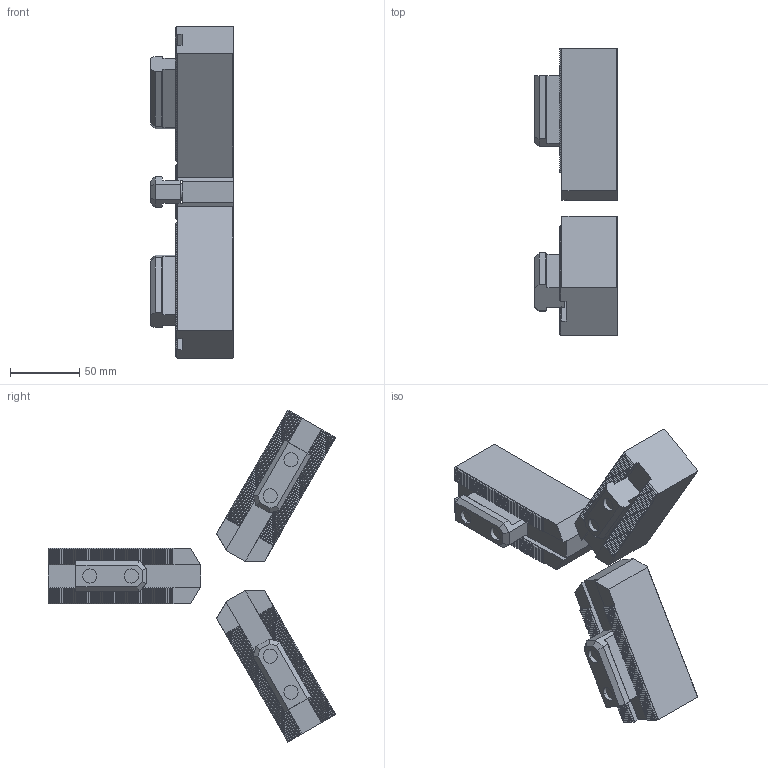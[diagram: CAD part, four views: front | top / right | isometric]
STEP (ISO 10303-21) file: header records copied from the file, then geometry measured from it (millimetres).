
FILE_DESCRIPTION (( 'STEP AP214' ), '1' );
FILE_NAME ('B-210_61P214655-6_UC.STEP', '2020-10-14T06:23:12', ( '' ), ( '' ), 'SwSTEP 2.0', 'SolidWorks 2017', '' );
FILE_SCHEMA (( 'AUTOMOTIVE_DESIGN' ));
Length unit declared in the file: millimetre
Products named in the file (5): B-210_BASE^61P214915-8_ASSY; Bアナツキ M12×30; P31633_SoftJaw; 61P417262_T-Nut; B-210_61P214655-6_UC
Assembly tree (13 placements, depth 2):
  B-210_61P214655-6_UC
    61P417262_T-Nut  x3
    P31633_SoftJaw  x3
    Bアナツキ M12×30  x6
    B-210_BASE^61P214915-8_ASSY
Bounding box: 59.7 x 207.44 x 239.53 mm (x, y, z)
Volume: 539256.5 mm3; surface area: 110962 mm2
Topology: 12 solids, 12 shells, 1353 faces, 3897 edges, 2586 vertices
Faces by surface type: plane 1263, cylinder 66, cone 24
Entity records: 113213 total; most frequent: CARTESIAN_POINT 22187, ORIENTED_EDGE 13927, DIRECTION 11978, EDGE_CURVE 6965, LINE 5806, VECTOR 5806, VERTEX_POINT 4591, AXIS2_PLACEMENT_3D 3086
